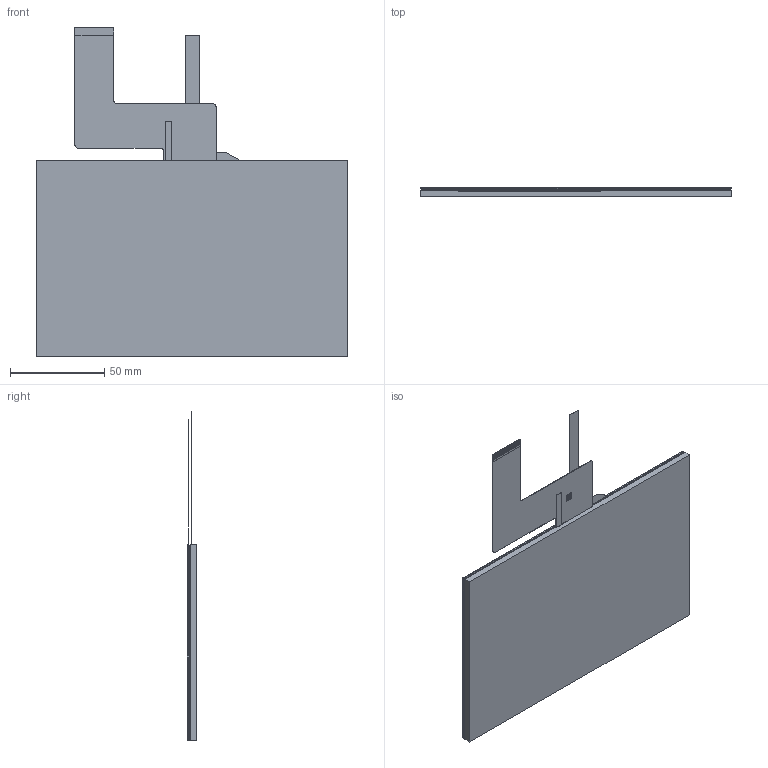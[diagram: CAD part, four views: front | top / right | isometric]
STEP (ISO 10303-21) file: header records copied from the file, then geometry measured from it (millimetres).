
FILE_DESCRIPTION (( 'STEP AP214' ), '1' );
FILE_NAME ('NHD-7.0-800480EF_CTP.STEP', '2017-04-27T14:53:33', ( '' ), ( '' ), 'SwSTEP 2.0', 'SolidWorks 2015', '' );
FILE_SCHEMA (( 'AUTOMOTIVE_DESIGN' ));
Length unit declared in the file: millimetre
Products named in the file (8): NHD-CTP-7.0K; ｦｦ+ｦ; FPC; OCA; SENSOR; LENS; PRT070; NHD-7.0-800480EF_CTP
Assembly tree (7 placements, depth 3):
  NHD-7.0-800480EF_CTP
    PRT070
    NHD-CTP-7.0K
      LENS
      SENSOR
      OCA
      FPC
      ｦｦ+ｦ
Bounding box: 165 x 5.08 x 175 mm (x, y, z)
Volume: 80359.7 mm3; surface area: 147929.7 mm2
Topology: 9 solids, 9 shells, 323 faces, 897 edges, 598 vertices
Faces by surface type: plane 295, cylinder 28
Entity records: 10613 total; most frequent: CARTESIAN_POINT 1829, ORIENTED_EDGE 1794, DIRECTION 1621, EDGE_CURVE 897, VECTOR 841, LINE 841, VERTEX_POINT 598, AXIS2_PLACEMENT_3D 390
